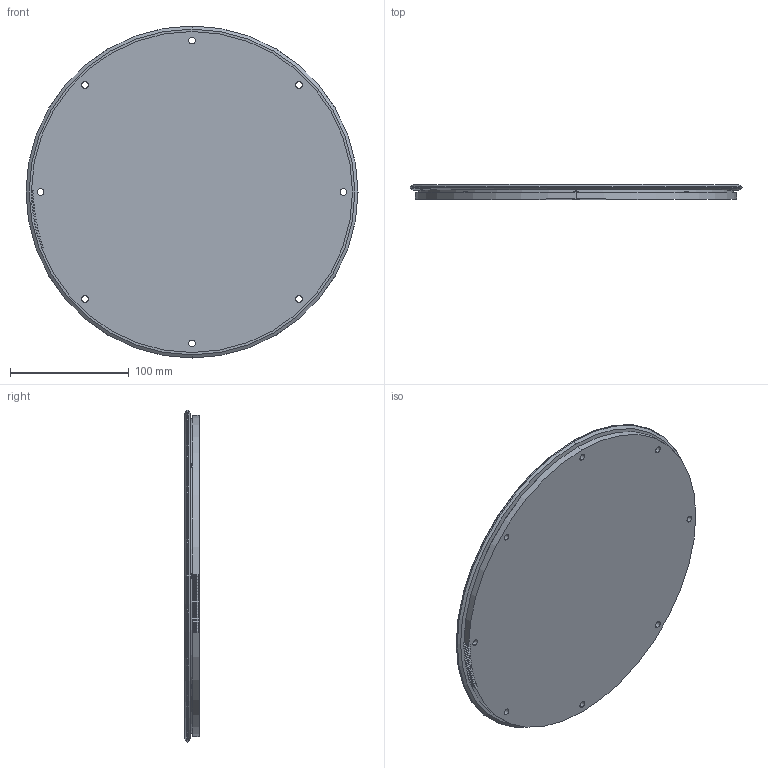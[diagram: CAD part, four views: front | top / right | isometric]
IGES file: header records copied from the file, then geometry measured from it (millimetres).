
Start section: 3D InterOp IGES (v. 2020 1.0.1), Spatial Corp. Copyright (c) 1999-2017.
Global section: file name: rd25_255_p.igs; native system: Spatial Corp.; preprocessor: 3D InterOp ACIS/IGES; author: TraceParts; organization: TraceParts S.A.; date: 20220624.041430; units: millimetre
Bounding box: 279.61 x 12.25 x 279.61 mm (x, y, z)
Surface area: 137733.5 mm2 (no closed solid volume)
Topology: 0 solids, 0 shells, 159 faces, 870 edges, 870 vertices
Faces by surface type: extrusion 114, revolution 45
